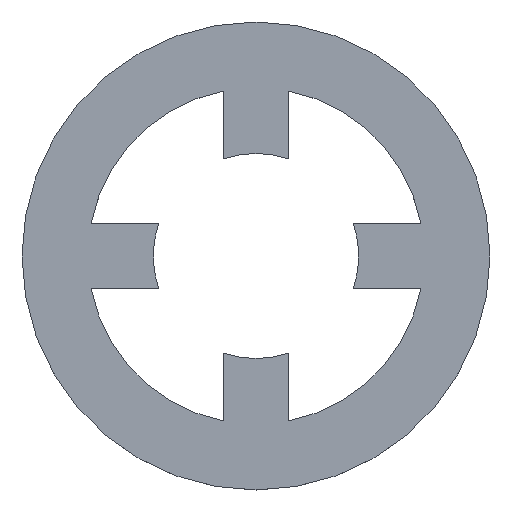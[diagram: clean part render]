
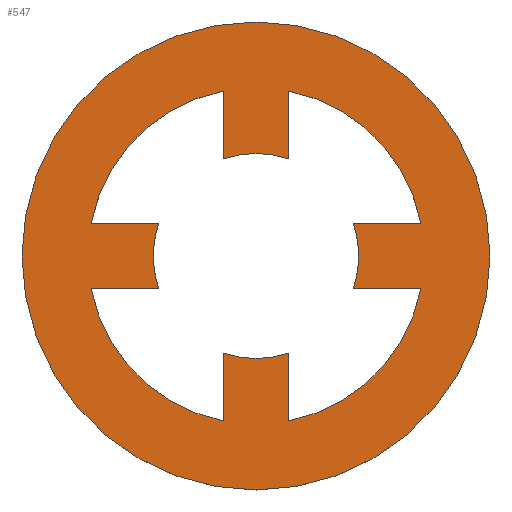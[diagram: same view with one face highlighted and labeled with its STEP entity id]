
A CAD part, top view. The second image highlights one B-rep face of the part: STEP entity #547.
In plain terms, the highlighted planar face has unit normal (0, 0, 1).
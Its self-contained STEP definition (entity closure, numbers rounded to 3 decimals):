
#51=CARTESIAN_POINT('',(-4.521,0.,0.305));
#52=VERTEX_POINT('',#51);
#68=CARTESIAN_POINT('',(4.521,0.,0.305));
#69=VERTEX_POINT('',#68);
#76=CARTESIAN_POINT('',(0.0,0.0,0.305));
#77=DIRECTION('',(0.0,0.0,-1.0));
#78=DIRECTION('',(-1.0,0.0,0.0));
#79=AXIS2_PLACEMENT_3D('',#76,#77,#78);
#80=CIRCLE('',#79,4.521);
#81=EDGE_CURVE('',#69,#52,#80,.T.);
#91=CARTESIAN_POINT('',(-1.981,0.,0.305));
#92=VERTEX_POINT('',#91);
#101=CARTESIAN_POINT('',(-1.877,-0.635,0.305));
#102=VERTEX_POINT('',#101);
#103=CARTESIAN_POINT('',(0.0,0.0,0.305));
#104=DIRECTION('',(0.0,0.0,-1.0));
#105=DIRECTION('',(-1.0,0.0,0.0));
#106=AXIS2_PLACEMENT_3D('',#103,#104,#105);
#107=CIRCLE('',#106,1.981);
#108=EDGE_CURVE('',#102,#92,#107,.T.);
#135=CARTESIAN_POINT('',(1.981,0.,0.305));
#136=VERTEX_POINT('',#135);
#152=CARTESIAN_POINT('',(1.877,-0.635,0.305));
#153=VERTEX_POINT('',#152);
#160=CARTESIAN_POINT('',(0.0,0.0,0.305));
#161=DIRECTION('',(0.0,0.0,-1.0));
#162=DIRECTION('',(-1.0,0.0,0.0));
#163=AXIS2_PLACEMENT_3D('',#160,#161,#162);
#164=CIRCLE('',#163,1.981);
#165=EDGE_CURVE('',#136,#153,#164,.T.);
#175=CARTESIAN_POINT('',(-0.635,-3.187,0.305));
#176=VERTEX_POINT('',#175);
#177=CARTESIAN_POINT('',(-3.187,-0.635,0.305));
#178=VERTEX_POINT('',#177);
#179=CARTESIAN_POINT('',(0.0,0.0,0.305));
#180=DIRECTION('',(0.0,0.0,-1.));
#181=DIRECTION('',(-0.981,-0.195,0.0));
#182=AXIS2_PLACEMENT_3D('',#179,#180,#181);
#183=CIRCLE('',#182,3.25);
#184=EDGE_CURVE('',#176,#178,#183,.T.);
#217=CARTESIAN_POINT('',(-3.187,-0.635,0.305));
#218=DIRECTION('',(1.0,0.0,0.0));
#219=VECTOR('',#218,1.311);
#220=LINE('',#217,#219);
#221=EDGE_CURVE('',#178,#102,#220,.T.);
#239=CARTESIAN_POINT('',(-0.635,-1.877,0.305));
#240=VERTEX_POINT('',#239);
#241=CARTESIAN_POINT('',(-0.635,-1.877,0.305));
#242=DIRECTION('',(0.0,-1.0,0.0));
#243=VECTOR('',#242,1.311);
#244=LINE('',#241,#243);
#245=EDGE_CURVE('',#240,#176,#244,.T.);
#270=CARTESIAN_POINT('',(-3.187,0.635,0.305));
#271=VERTEX_POINT('',#270);
#272=CARTESIAN_POINT('',(-0.635,3.187,0.305));
#273=VERTEX_POINT('',#272);
#274=CARTESIAN_POINT('',(0.0,0.0,0.305));
#275=DIRECTION('',(0.0,0.0,-1.));
#276=DIRECTION('',(-0.195,0.981,0.0));
#277=AXIS2_PLACEMENT_3D('',#274,#275,#276);
#278=CIRCLE('',#277,3.25);
#279=EDGE_CURVE('',#271,#273,#278,.T.);
#312=CARTESIAN_POINT('',(-0.635,1.877,0.305));
#313=VERTEX_POINT('',#312);
#314=CARTESIAN_POINT('',(-0.635,3.187,0.305));
#315=DIRECTION('',(0.0,-1.0,0.0));
#316=VECTOR('',#315,1.311);
#317=LINE('',#314,#316);
#318=EDGE_CURVE('',#273,#313,#317,.T.);
#343=CARTESIAN_POINT('',(-1.877,0.635,0.305));
#344=VERTEX_POINT('',#343);
#345=CARTESIAN_POINT('',(-1.877,0.635,0.305));
#346=DIRECTION('',(-1.0,0.0,0.0));
#347=VECTOR('',#346,1.311);
#348=LINE('',#345,#347);
#349=EDGE_CURVE('',#344,#271,#348,.T.);
#374=CARTESIAN_POINT('',(3.187,-0.635,0.305));
#375=VERTEX_POINT('',#374);
#376=CARTESIAN_POINT('',(0.635,-3.187,0.305));
#377=VERTEX_POINT('',#376);
#378=CARTESIAN_POINT('',(0.0,0.0,0.305));
#379=DIRECTION('',(0.0,0.0,-1.));
#380=DIRECTION('',(0.195,-0.981,0.0));
#381=AXIS2_PLACEMENT_3D('',#378,#379,#380);
#382=CIRCLE('',#381,3.25);
#383=EDGE_CURVE('',#375,#377,#382,.T.);
#416=CARTESIAN_POINT('',(0.635,-1.877,0.305));
#417=VERTEX_POINT('',#416);
#418=CARTESIAN_POINT('',(0.635,-3.187,0.305));
#419=DIRECTION('',(0.0,1.0,0.0));
#420=VECTOR('',#419,1.311);
#421=LINE('',#418,#420);
#422=EDGE_CURVE('',#377,#417,#421,.T.);
#447=CARTESIAN_POINT('',(1.877,-0.635,0.305));
#448=DIRECTION('',(1.0,0.0,0.0));
#449=VECTOR('',#448,1.311);
#450=LINE('',#447,#449);
#451=EDGE_CURVE('',#153,#375,#450,.T.);
#464=CARTESIAN_POINT('',(0.0,0.0,0.305));
#465=DIRECTION('',(0.0,0.0,-1.0));
#466=DIRECTION('',(-1.0,0.0,0.0));
#467=AXIS2_PLACEMENT_3D('',#464,#465,#466);
#468=PLANE('',#467);
#469=ORIENTED_EDGE('',*,*,#81,.F.);
#470=CARTESIAN_POINT('',(0.0,0.0,0.305));
#471=DIRECTION('',(0.0,0.0,-1.0));
#472=DIRECTION('',(-1.0,0.0,0.0));
#473=AXIS2_PLACEMENT_3D('',#470,#471,#472);
#474=CIRCLE('',#473,4.521);
#475=EDGE_CURVE('',#52,#69,#474,.T.);
#476=ORIENTED_EDGE('',*,*,#475,.F.);
#477=EDGE_LOOP('',(#469,#476));
#478=FACE_OUTER_BOUND('',#477,.T.);
#479=ORIENTED_EDGE('',*,*,#245,.T.);
#480=ORIENTED_EDGE('',*,*,#184,.T.);
#481=ORIENTED_EDGE('',*,*,#221,.T.);
#482=ORIENTED_EDGE('',*,*,#108,.T.);
#483=CARTESIAN_POINT('',(0.0,0.0,0.305));
#484=DIRECTION('',(0.0,0.0,-1.0));
#485=DIRECTION('',(-1.0,0.0,0.0));
#486=AXIS2_PLACEMENT_3D('',#483,#484,#485);
#487=CIRCLE('',#486,1.981);
#488=EDGE_CURVE('',#92,#344,#487,.T.);
#489=ORIENTED_EDGE('',*,*,#488,.T.);
#490=ORIENTED_EDGE('',*,*,#349,.T.);
#491=ORIENTED_EDGE('',*,*,#279,.T.);
#492=ORIENTED_EDGE('',*,*,#318,.T.);
#493=CARTESIAN_POINT('',(0.635,1.877,0.305));
#494=VERTEX_POINT('',#493);
#495=CARTESIAN_POINT('',(0.0,0.0,0.305));
#496=DIRECTION('',(0.0,0.0,-1.0));
#497=DIRECTION('',(-1.0,0.0,0.0));
#498=AXIS2_PLACEMENT_3D('',#495,#496,#497);
#499=CIRCLE('',#498,1.981);
#500=EDGE_CURVE('',#313,#494,#499,.T.);
#501=ORIENTED_EDGE('',*,*,#500,.T.);
#502=CARTESIAN_POINT('',(0.635,3.187,0.305));
#503=VERTEX_POINT('',#502);
#504=CARTESIAN_POINT('',(0.635,1.877,0.305));
#505=DIRECTION('',(0.0,1.0,0.0));
#506=VECTOR('',#505,1.311);
#507=LINE('',#504,#506);
#508=EDGE_CURVE('',#494,#503,#507,.T.);
#509=ORIENTED_EDGE('',*,*,#508,.T.);
#510=CARTESIAN_POINT('',(3.187,0.635,0.305));
#511=VERTEX_POINT('',#510);
#512=CARTESIAN_POINT('',(0.0,0.0,0.305));
#513=DIRECTION('',(0.0,0.0,-1.));
#514=DIRECTION('',(0.981,0.195,0.0));
#515=AXIS2_PLACEMENT_3D('',#512,#513,#514);
#516=CIRCLE('',#515,3.25);
#517=EDGE_CURVE('',#503,#511,#516,.T.);
#518=ORIENTED_EDGE('',*,*,#517,.T.);
#519=CARTESIAN_POINT('',(1.877,0.635,0.305));
#520=VERTEX_POINT('',#519);
#521=CARTESIAN_POINT('',(3.187,0.635,0.305));
#522=DIRECTION('',(-1.0,0.0,0.0));
#523=VECTOR('',#522,1.311);
#524=LINE('',#521,#523);
#525=EDGE_CURVE('',#511,#520,#524,.T.);
#526=ORIENTED_EDGE('',*,*,#525,.T.);
#527=CARTESIAN_POINT('',(0.0,0.0,0.305));
#528=DIRECTION('',(0.0,0.0,-1.0));
#529=DIRECTION('',(-1.0,0.0,0.0));
#530=AXIS2_PLACEMENT_3D('',#527,#528,#529);
#531=CIRCLE('',#530,1.981);
#532=EDGE_CURVE('',#520,#136,#531,.T.);
#533=ORIENTED_EDGE('',*,*,#532,.T.);
#534=ORIENTED_EDGE('',*,*,#165,.T.);
#535=ORIENTED_EDGE('',*,*,#451,.T.);
#536=ORIENTED_EDGE('',*,*,#383,.T.);
#537=ORIENTED_EDGE('',*,*,#422,.T.);
#538=CARTESIAN_POINT('',(0.0,0.0,0.305));
#539=DIRECTION('',(0.0,0.0,-1.0));
#540=DIRECTION('',(-1.0,0.0,0.0));
#541=AXIS2_PLACEMENT_3D('',#538,#539,#540);
#542=CIRCLE('',#541,1.981);
#543=EDGE_CURVE('',#417,#240,#542,.T.);
#544=ORIENTED_EDGE('',*,*,#543,.T.);
#545=EDGE_LOOP('',(#479,#480,#481,#482,#489,#490,#491,#492,#501,#509,#518,#526,#533,#534,#535,#536,#537,#544));
#546=FACE_BOUND('',#545,.T.);
#547=ADVANCED_FACE('',(#478,#546),#468,.F.);
